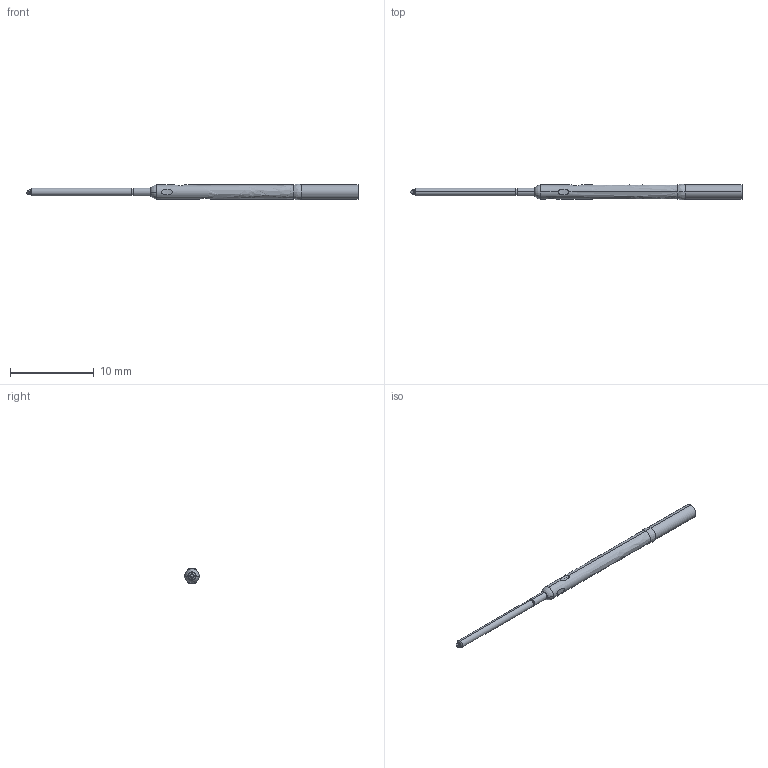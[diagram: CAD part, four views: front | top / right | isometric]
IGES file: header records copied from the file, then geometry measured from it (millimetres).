
Start section: SolidWorks IGES file using analytic representation for surfaces
Global section: file name: Z:\probe solid model mockups\Solidworks models\DER-100\DER-0100T Full.IGS; native system: SolidWorks 2006 by SolidWorks Corporation; preprocessor: SolidWorks 2006 by SolidWorks Corporation; author: tsakatani; date: 071218.090436; units: inch
Bounding box: 39.72 x 1.86 x 1.88 mm (x, y, z)
Surface area: 285 mm2 (no closed solid volume)
Topology: 0 solids, 0 shells, 39 faces, 410 edges, 410 vertices
Faces by surface type: revolution 29, bspline 10
